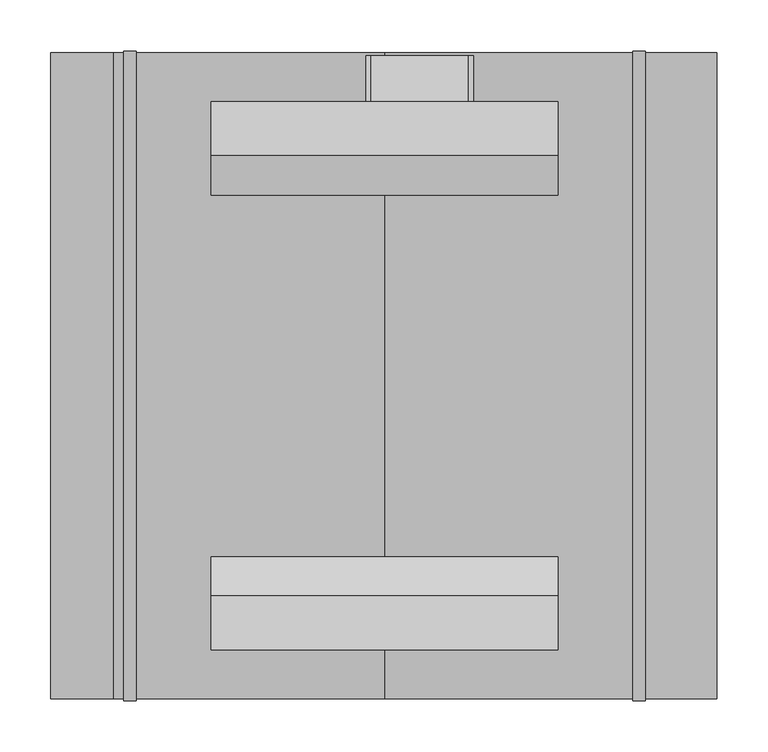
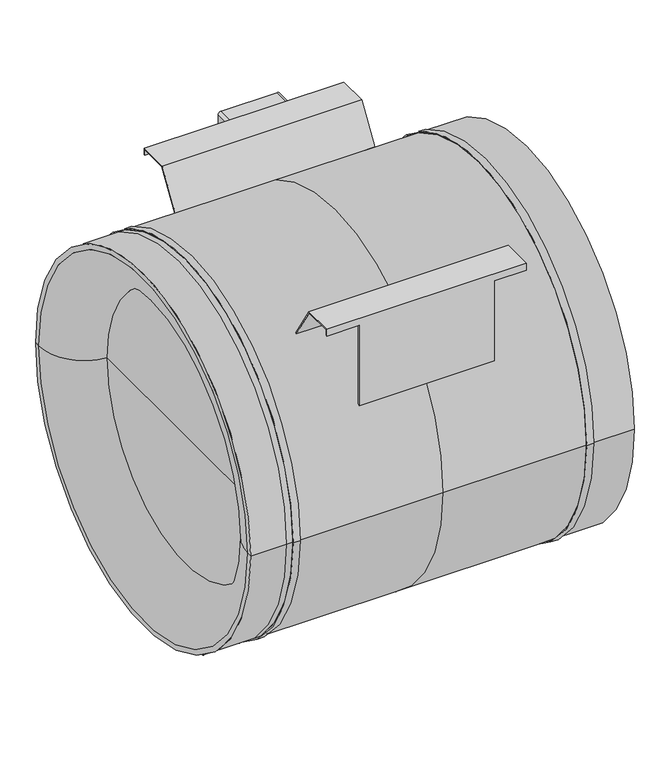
"""IFC4 building model written with IfcOpenShell, lengths in millimetres: unitary equipment geometry, VE-Wentylator-ParaForma-Harmann-JETTEC-Nawiewny : 630/14000S."""

from ifc_helpers import new_model, si_unit, point, frame, frame_2d, origin, place, context, project, spatial, polyline, circle_curve, ellipse_curve, trimmed, segment, composite_curve, outline, extrude, source, transform, mapped, element, save
from ifc_brep_helpers import plane_surface, cylinder_surface, revolved_surface, advanced_brep


def unitary_equipment_4c27e171(model_context):
    return source(origin(), model_context, "Body", "SolidModel", [
        extrude(outline(composite_curve([segment(trimmed(circle_curve(frame_2d((222.6, 82.2)), 5.0), [point((217.6, 82.2))], [point((222.6, 87.2))], False, "CARTESIAN"), True, "CONTINUOUS"), segment(polyline([(222.6, 87.2), (303.6, 87.2)]), True, "CONTINUOUS"), segment(trimmed(circle_curve(frame_2d((303.6, 82.2)), 5.0), [point((303.6, 87.2))], [point((308.6, 82.2))], False, "CARTESIAN"), True, "CONTINUOUS"), segment(polyline([(308.6, 82.2), (308.6, -13.2)]), True, "CONTINUOUS"), segment(trimmed(circle_curve(frame_2d((303.6, -13.2)), 5.0), [point((308.6, -13.2))], [point((303.6, -18.2))], False, "CARTESIAN"), True, "CONTINUOUS"), segment(polyline([(303.6, -18.2), (222.6, -18.2)]), True, "CONTINUOUS"), segment(trimmed(circle_curve(frame_2d((222.6, -13.2)), 5.0), [point((222.6, -18.2))], [point((217.6, -13.2))], False, "CARTESIAN"), True, "CONTINUOUS"), segment(polyline([(217.6, -13.2), (217.6, 82.2)]), True, "CONTINUOUS")], self_intersect=False)), frame((0.0, 269.2, 0.0), z_axis=(0.0, 1.0, 0.0), x_axis=(0.0, 0.0, 1.0)), (0.0, 0.0, 1.0), 45.0),
        advanced_brep(
        [(170.0, 269.2, 312.2), (170.0, 269.2, 324.2), (170.0, 216.1, 324.2), (170.0, 177.6331917, 262.7970495), (170.0, 179.2878179, 261.6710117), (170.0, 217.2071194, 322.2), (170.0, 267.2, 322.2), (170.0, 267.2, 312.2), (115.0, 267.2, 312.2), (115.0, 269.2, 312.2), (-170.0, 267.2, 322.2), (-170.0, 267.2, 312.2), (-115.0, 267.2, 312.2), (-115.0, 267.2, 170.9385855), (115.0, 267.2, 170.9385855), (-170.0, 217.2071194, 322.2), (115.0, 179.2878179, 261.6710117), (-115.0, 179.2878179, 261.6710117), (-170.0, 179.2878179, 261.6710117), (-170.0, 216.1, 324.2), (-170.0, 177.6331917, 262.7970495), (-115.0, 177.6331917, 262.7970495), (115.0, 177.6331917, 262.7970495), (-170.0, 269.2, 324.2), (115.0, 269.2, 167.7712729), (-115.0, 269.2, 167.7712729), (-115.0, 269.2, 312.2), (-170.0, 269.2, 312.2)],
        [
            (0, 1),
            (1, 2),
            (2, 3),
            (3, 4, circle_curve(frame((170.0, 0.0, 0.0), z_axis=(-1.0, 0.0, 0.0), x_axis=(0.0, 1.0, 0.0)), 317.2)),
            (4, 5),
            (5, 6),
            (6, 7),
            (7, 0),
            (7, 8),
            (8, 9),
            (9, 0),
            (6, 10),
            (10, 11),
            (11, 12),
            (12, 13),
            (13, 14),
            (14, 8),
            (5, 15),
            (15, 10),
            (4, 16),
            (16, 17),
            (17, 18),
            (18, 15),
            (19, 20),
            (20, 21),
            (21, 22),
            (22, 3),
            (2, 19),
            (1, 23),
            (23, 19),
            (9, 24),
            (24, 25),
            (25, 26),
            (26, 27),
            (27, 23),
            (20, 18, circle_curve(frame((-170.0, 0.0, 0.0), z_axis=(-1.0, 0.0, 0.0), x_axis=(0.0, 1.0, 0.0)), 317.2)),
            (17, 21, circle_curve(frame((-115.0, 0.0, 0.0), z_axis=(1.0, 0.0, 0.0), x_axis=(0.0, 1.0, 0.0)), 317.2)),
            (22, 16, circle_curve(frame((115.0, 0.0, 0.0), z_axis=(-1.0, 0.0, 0.0), x_axis=(0.0, 1.0, 0.0)), 317.2)),
            (25, 13, circle_curve(frame((-115.0, 0.0, 0.0), z_axis=(1.0, 0.0, 0.0), x_axis=(0.0, 1.0, 0.0)), 317.2)),
            (12, 26),
            (14, 24, circle_curve(frame((115.0, 0.0, 0.0), z_axis=(-1.0, 0.0, 0.0), x_axis=(0.0, 1.0, 0.0)), 317.2)),
            (27, 11),
        ],
        [
            plane_surface(frame((170.0, 0.0, 0.0), z_axis=(1.0, 0.0, 0.0), x_axis=(0.0, 0.0, 1.0))),
            plane_surface(frame((115.0, 269.2, 312.2), z_axis=(0.0, 0.0, -1.0), x_axis=(1.0, 0.0, 0.0))),
            plane_surface(frame((115.0, 267.2, 312.2), z_axis=(0.0, -1.0, 0.0), x_axis=(1.0, 0.0, 0.0))),
            plane_surface(frame((115.0, 267.2, 322.2), z_axis=(0.0, 0.0, -1.0), x_axis=(1.0, 0.0, 0.0))),
            plane_surface(frame((115.0, 217.2071194, 322.2), z_axis=(0.0, 0.8474398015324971, -0.5308914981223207), x_axis=(1.0, 0.0, 0.0))),
            plane_surface(frame((115.0, 13.0, 0.0), z_axis=(0.0, -0.8474398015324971, 0.5308914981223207), x_axis=(1.0, 0.0, 0.0))),
            plane_surface(frame((115.0, 216.1, 324.2), z_axis=(0.0, 0.0, 1.0), x_axis=(1.0, 0.0, 0.0))),
            plane_surface(frame((115.0, 269.2, 324.2), z_axis=(0.0, 1.0, 0.0), x_axis=(1.0, 0.0, 0.0))),
            revolved_surface(polyline([(-170.0, 317.2, 0.0), (-115.0, 317.2, 0.0)]), (-170.0, 0.0, 0.0), (-1.0, 0.0, 0.0)),
            revolved_surface(polyline([(115.0, 317.2, 0.0), (170.0, 317.2, 0.0)]), (115.0, 0.0, 0.0), (-1.0, 0.0, 0.0)),
            plane_surface(frame((-115.0, 0.0, 0.0), z_axis=(-1.0, 0.0, 0.0), x_axis=(0.0, 0.0, 1.0))),
            plane_surface(frame((115.0, 0.0, 0.0), z_axis=(1.0, 0.0, 0.0), x_axis=(0.0, 0.0, 1.0))),
            revolved_surface(polyline([(-115.0, 317.2, 0.0), (115.0, 317.2, 0.0)]), (-115.0, 0.0, 0.0), (-1.0, 0.0, 0.0)),
            plane_surface(frame((-170.0, 0.0, 0.0), z_axis=(-1.0, 0.0, 0.0), x_axis=(0.0, 0.0, 1.0))),
            plane_surface(frame((-170.0, 269.2, 312.2), z_axis=(0.0, 0.0, -1.0), x_axis=(1.0, 0.0, 0.0))),
        ],
        [
            (0, [[1, 2, 3, 4, 5, 6, 7, 8]]),
            (1, [[-8, 9, 10, 11]]),
            (2, [[-7, 12, 13, 14, 15, 16, 17, -9]]),
            (3, [[-12, -6, 18, 19]]),
            (4, [[-18, -5, 20, 21, 22, 23]]),
            (5, [[24, 25, 26, 27, -3, 28]]),
            (6, [[-28, -2, 29, 30]]),
            (7, [[-29, -1, -11, 31, 32, 33, 34, 35]]),
            (8, [[36, -22, 37, -25]]),
            (9, [[-4, -27, 38, -20]]),
            (10, [[39, -15, 40, -33]]),
            (11, [[41, -31, -10, -17]]),
            (12, [[-21, -38, -26, -37]]),
            (12, [[-39, -32, -41, -16]]),
            (13, [[42, -13, -19, -23, -36, -24, -30, -35]]),
            (14, [[-42, -34, -40, -14]]),
        ],
    ),
        advanced_brep(
        [(170.0, -216.1, 324.2), (170.0, -269.2, 324.2), (170.0, -269.2, 312.2), (170.0, -267.2, 312.2), (170.0, -267.2, 322.2), (170.0, -217.2071194, 322.2), (170.0, -179.2878179, 261.6710117), (170.0, -177.6331917, 262.7970495), (-170.0, -217.2071194, 322.2), (-170.0, -179.2878179, 261.6710117), (-115.0, -179.2878179, 261.6710117), (115.0, -179.2878179, 261.6710117), (-170.0, -267.2, 322.2), (115.0, -267.2, 312.2), (115.0, -267.2, 170.9385855), (-115.0, -267.2, 170.9385855), (-115.0, -267.2, 312.2), (-170.0, -267.2, 312.2), (115.0, -269.2, 312.2), (-170.0, -269.2, 324.2), (-170.0, -269.2, 312.2), (-115.0, -269.2, 312.2), (-115.0, -269.2, 167.7712729), (115.0, -269.2, 167.7712729), (-170.0, -216.1, 324.2), (115.0, -177.6331917, 262.7970495), (-115.0, -177.6331917, 262.7970495), (-170.0, -177.6331917, 262.7970495)],
        [
            (0, 1),
            (1, 2),
            (2, 3),
            (3, 4),
            (4, 5),
            (5, 6),
            (6, 7, circle_curve(frame((170.0, 0.0, 0.0), z_axis=(-1.0, 0.0, 0.0), x_axis=(0.0, 1.0, 0.0)), 317.2)),
            (7, 0),
            (8, 9),
            (9, 10),
            (10, 11),
            (11, 6),
            (5, 8),
            (4, 12),
            (12, 8),
            (3, 13),
            (13, 14),
            (14, 15),
            (15, 16),
            (16, 17),
            (17, 12),
            (2, 18),
            (18, 13),
            (1, 19),
            (19, 20),
            (20, 21),
            (21, 22),
            (22, 23),
            (23, 18),
            (0, 24),
            (24, 19),
            (7, 25),
            (25, 26),
            (26, 27),
            (27, 24),
            (9, 27, circle_curve(frame((-170.0, 0.0, 0.0), z_axis=(-1.0, 0.0, 0.0), x_axis=(0.0, 1.0, 0.0)), 317.2)),
            (26, 10, circle_curve(frame((-115.0, 0.0, 0.0), z_axis=(1.0, 0.0, 0.0), x_axis=(0.0, 1.0, 0.0)), 317.2)),
            (11, 25, circle_curve(frame((115.0, 0.0, 0.0), z_axis=(-1.0, 0.0, 0.0), x_axis=(0.0, 1.0, 0.0)), 317.2)),
            (15, 22, circle_curve(frame((-115.0, 0.0, 0.0), z_axis=(1.0, 0.0, 0.0), x_axis=(0.0, 1.0, 0.0)), 317.2)),
            (21, 16),
            (23, 14, circle_curve(frame((115.0, 0.0, 0.0), z_axis=(-1.0, 0.0, 0.0), x_axis=(0.0, 1.0, 0.0)), 317.2)),
            (17, 20),
        ],
        [
            plane_surface(frame((170.0, 0.0, 0.0), z_axis=(1.0, 0.0, 0.0), x_axis=(0.0, 0.0, 1.0))),
            plane_surface(frame((115.0, -14.1071194, -2.0), z_axis=(0.0, -0.8474398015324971, -0.5308914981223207), x_axis=(1.0, 0.0, 0.0))),
            plane_surface(frame((115.0, -217.2071194, 322.2), z_axis=(0.0, 0.0, -1.0), x_axis=(1.0, 0.0, 0.0))),
            plane_surface(frame((115.0, -267.2, 322.2), z_axis=(0.0, 1.0, 0.0), x_axis=(1.0, 0.0, 0.0))),
            plane_surface(frame((115.0, -267.2, 312.2), z_axis=(0.0, 0.0, -1.0), x_axis=(1.0, 0.0, 0.0))),
            plane_surface(frame((115.0, -269.2, 312.2), z_axis=(0.0, -1.0, 0.0), x_axis=(1.0, 0.0, 0.0))),
            plane_surface(frame((115.0, -269.2, 324.2), z_axis=(0.0, 0.0, 1.0), x_axis=(1.0, 0.0, 0.0))),
            plane_surface(frame((115.0, -216.1, 324.2), z_axis=(0.0, 0.8474398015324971, 0.5308914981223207), x_axis=(1.0, 0.0, 0.0))),
            revolved_surface(polyline([(-170.0, 317.2, 0.0), (-115.0, 317.2, 0.0)]), (-170.0, 0.0, 0.0), (-1.0, 0.0, 0.0)),
            revolved_surface(polyline([(115.0, 317.2, 0.0), (170.0, 317.2, 0.0)]), (115.0, 0.0, 0.0), (-1.0, 0.0, 0.0)),
            plane_surface(frame((-115.0, 0.0, 0.0), z_axis=(-1.0, 0.0, 0.0), x_axis=(0.0, 0.0, 1.0))),
            plane_surface(frame((115.0, 0.0, 0.0), z_axis=(1.0, 0.0, 0.0), x_axis=(0.0, 0.0, 1.0))),
            revolved_surface(polyline([(-115.0, 317.2, 0.0), (115.0, 317.2, 0.0)]), (-115.0, 0.0, 0.0), (-1.0, 0.0, 0.0)),
            plane_surface(frame((-170.0, 0.0, 0.0), z_axis=(-1.0, 0.0, 0.0), x_axis=(0.0, 0.0, 1.0))),
            plane_surface(frame((-170.0, -267.2, 312.2), z_axis=(0.0, 0.0, -1.0), x_axis=(1.0, 0.0, 0.0))),
        ],
        [
            (0, [[1, 2, 3, 4, 5, 6, 7, 8]]),
            (1, [[9, 10, 11, 12, -6, 13]]),
            (2, [[-13, -5, 14, 15]]),
            (3, [[-14, -4, 16, 17, 18, 19, 20, 21]]),
            (4, [[-3, 22, 23, -16]]),
            (5, [[-2, 24, 25, 26, 27, 28, 29, -22]]),
            (6, [[-24, -1, 30, 31]]),
            (7, [[-30, -8, 32, 33, 34, 35]]),
            (8, [[36, -34, 37, -10]]),
            (9, [[-7, -12, 38, -32]]),
            (10, [[39, -27, 40, -19]]),
            (11, [[41, -17, -23, -29]]),
            (12, [[-11, -37, -33, -38]]),
            (12, [[-39, -18, -41, -28]]),
            (13, [[-15, -21, 42, -25, -31, -35, -36, -9]]),
            (14, [[-42, -20, -40, -26]]),
        ],
    ),
        advanced_brep(
        [(0.0, 317.2, 0.0), (0.0, -317.2, 0.0), (-244.0, -317.2, 0.0), (-244.0, 317.2, 0.0), (-265.9, -317.2, 0.0), (-265.9, 317.2, 0.0), (-256.0, 317.2, 0.0), (-256.0, -317.2, 0.0), (-327.5, -317.2, 0.0), (-327.5, 317.2, 0.0), (-327.5, -308.5, 0.0), (-327.5, 308.5, 0.0), (-256.0, -230.3127248, 0.0), (-256.0, 230.3127248, 0.0), (326.0, -317.2, 0.0), (326.0, 317.2, 0.0), (326.0, 0.0, 0.0), (256.0, -317.2, 0.0), (256.0, 317.2, 0.0), (244.0, 317.2, 0.0), (244.0, -317.2, 0.0), (-244.0, -319.0, 0.0), (-244.0, 319.0, 0.0), (-256.0, -319.0, 0.0), (-256.0, 319.0, 0.0), (-256.0, 0.0, 0.0), (256.0, -319.0, 0.0), (256.0, 319.0, 0.0), (244.0, -319.0, 0.0), (244.0, 319.0, 0.0)],
        [
            (0, 1, circle_curve(frame((0.0, 0.0, 0.0), z_axis=(-1.0, 0.0, 0.0), x_axis=(0.0, 1.0, 0.0)), 317.2)),
            (1, 2),
            (2, 3, circle_curve(frame((-244.0, 0.0, 0.0), z_axis=(1.0, 0.0, 0.0), x_axis=(0.0, 1.0, 0.0)), 317.2)),
            (3, 0),
            (1, 0, circle_curve(frame((0.0, 0.0, 0.0), z_axis=(-1.0, 0.0, 0.0), x_axis=(0.0, 1.0, 0.0)), 317.2)),
            (3, 2, circle_curve(frame((-244.0, 0.0, 0.0), z_axis=(1.0, 0.0, 0.0), x_axis=(0.0, 1.0, 0.0)), 317.2)),
            (4, 5, circle_curve(frame((-265.9, 0.0, 0.0), z_axis=(1.0, 0.0, 0.0), x_axis=(0.0, 1.0, 0.0)), 317.2)),
            (5, 6),
            (6, 7, circle_curve(frame((-256.0, 0.0, 0.0), z_axis=(-1.0, 0.0, 0.0), x_axis=(0.0, 1.0, 0.0)), 317.2)),
            (7, 4),
            (5, 4, circle_curve(frame((-265.9, 0.0, 0.0), z_axis=(1.0, 0.0, 0.0), x_axis=(0.0, 1.0, 0.0)), 317.2)),
            (7, 6, circle_curve(frame((-256.0, 0.0, 0.0), z_axis=(-1.0, 0.0, 0.0), x_axis=(0.0, 1.0, 0.0)), 317.2)),
            (4, 8),
            (8, 9, circle_curve(frame((-327.5, 0.0, 0.0), z_axis=(1.0, 0.0, 0.0), x_axis=(0.0, 1.0, 0.0)), 317.2)),
            (9, 5),
            (9, 8, circle_curve(frame((-327.5, 0.0, 0.0), z_axis=(1.0, 0.0, 0.0), x_axis=(0.0, 1.0, 0.0)), 317.2)),
            (8, 10),
            (10, 11, circle_curve(frame((-327.5, 0.0, 0.0), z_axis=(1.0, 0.0, 0.0), x_axis=(0.0, 1.0, 0.0)), 308.5)),
            (11, 9),
            (11, 10, circle_curve(frame((-327.5, 0.0, 0.0), z_axis=(1.0, 0.0, 0.0), x_axis=(0.0, 1.0, 0.0)), 308.5)),
            (10, 12, circle_curve(frame((-249.0, -308.5, 0.0), z_axis=(0.0, 0.0, -1.0), x_axis=(1.0, 0.0, 0.0)), 78.5)),
            (12, 13, circle_curve(frame((-256.0, 0.0, 0.0), z_axis=(1.0, 0.0, 0.0), x_axis=(0.0, 1.0, 0.0)), 230.3127248)),
            (13, 11, circle_curve(frame((-249.0, 308.5, 0.0), z_axis=(0.0, 0.0, -1.0), x_axis=(1.0, 0.0, 0.0)), 78.5)),
            (13, 12, circle_curve(frame((-256.0, 0.0, 0.0), z_axis=(1.0, 0.0, 0.0), x_axis=(0.0, 1.0, 0.0)), 230.3127248)),
            (14, 15, circle_curve(frame((326.0, 0.0, 0.0), z_axis=(1.0, 0.0, 0.0), x_axis=(0.0, 1.0, 0.0)), 317.2)),
            (15, 16),
            (16, 14),
            (15, 14, circle_curve(frame((326.0, 0.0, 0.0), z_axis=(1.0, 0.0, 0.0), x_axis=(0.0, 1.0, 0.0)), 317.2)),
            (14, 17),
            (17, 18, circle_curve(frame((256.0, 0.0, 0.0), z_axis=(1.0, 0.0, 0.0), x_axis=(0.0, 1.0, 0.0)), 317.2)),
            (18, 15),
            (18, 17, circle_curve(frame((256.0, 0.0, 0.0), z_axis=(1.0, 0.0, 0.0), x_axis=(0.0, 1.0, 0.0)), 317.2)),
            (0, 19),
            (19, 20, circle_curve(frame((244.0, 0.0, 0.0), z_axis=(-1.0, 0.0, 0.0), x_axis=(0.0, 1.0, 0.0)), 317.2)),
            (20, 1),
            (20, 19, circle_curve(frame((244.0, 0.0, 0.0), z_axis=(-1.0, 0.0, 0.0), x_axis=(0.0, 1.0, 0.0)), 317.2)),
            (21, 22, circle_curve(frame((-244.0, 0.0, 0.0), z_axis=(1.0, 0.0, 0.0), x_axis=(0.0, 1.0, 0.0)), 319.0)),
            (22, 3),
            (2, 21),
            (22, 21, circle_curve(frame((-244.0, 0.0, 0.0), z_axis=(1.0, 0.0, 0.0), x_axis=(0.0, 1.0, 0.0)), 319.0)),
            (21, 23),
            (23, 24, circle_curve(frame((-256.0, 0.0, 0.0), z_axis=(1.0, 0.0, 0.0), x_axis=(0.0, 1.0, 0.0)), 319.0)),
            (24, 22),
            (24, 23, circle_curve(frame((-256.0, 0.0, 0.0), z_axis=(1.0, 0.0, 0.0), x_axis=(0.0, 1.0, 0.0)), 319.0)),
            (23, 7),
            (6, 24),
            (12, 25),
            (25, 13),
            (26, 27, circle_curve(frame((256.0, 0.0, 0.0), z_axis=(1.0, 0.0, 0.0), x_axis=(0.0, 1.0, 0.0)), 319.0)),
            (27, 18),
            (17, 26),
            (27, 26, circle_curve(frame((256.0, 0.0, 0.0), z_axis=(1.0, 0.0, 0.0), x_axis=(0.0, 1.0, 0.0)), 319.0)),
            (26, 28),
            (28, 29, circle_curve(frame((244.0, 0.0, 0.0), z_axis=(1.0, 0.0, 0.0), x_axis=(0.0, 1.0, 0.0)), 319.0)),
            (29, 27),
            (29, 28, circle_curve(frame((244.0, 0.0, 0.0), z_axis=(1.0, 0.0, 0.0), x_axis=(0.0, 1.0, 0.0)), 319.0)),
            (28, 20),
            (19, 29),
        ],
        [
            cylinder_surface(frame((-249.0, 0.0, 0.0), z_axis=(-1.0, 0.0, 0.0), x_axis=(0.0, 1.0, 0.0)), 317.2),
            plane_surface(frame((-327.5, 0.0, 0.0), z_axis=(-1.0, 0.0, 0.0), x_axis=(0.0, 1.0, 0.0))),
            revolved_surface(trimmed(ellipse_curve(frame((-249.0, 308.5, 0.0), z_axis=(0.0, 0.0, 1.0), x_axis=(1.0, 0.0, 0.0)), 78.5, 78.5), [point((-327.5, 308.5, 0.0))], [point((-249.0, 230.0, 0.0))], True, "CARTESIAN"), (-249.0, 0.0, 0.0), (-1.0, 0.0, 0.0)),
            plane_surface(frame((326.0, 0.0, 0.0), z_axis=(1.0, 0.0, 0.0), x_axis=(0.0, 1.0, 0.0))),
            cylinder_surface(frame((0.0, 0.0, 0.0), z_axis=(-1.0, 0.0, 0.0), x_axis=(0.0, 1.0, 0.0)), 317.2),
            plane_surface(frame((-244.0, 0.0, 0.0), z_axis=(1.0, 0.0, 0.0), x_axis=(0.0, 1.0, 0.0))),
            cylinder_surface(frame((-256.0, 0.0, 0.0), z_axis=(-1.0, 0.0, 0.0), x_axis=(0.0, 1.0, 0.0)), 319.0),
            plane_surface(frame((-256.0, 0.0, 0.0), z_axis=(-1.0, 0.0, 0.0), x_axis=(0.0, 1.0, 0.0))),
            plane_surface(frame((256.0, 0.0, 0.0), z_axis=(1.0, 0.0, 0.0), x_axis=(0.0, 1.0, 0.0))),
            plane_surface(frame((244.0, 0.0, 0.0), z_axis=(-1.0, 0.0, 0.0), x_axis=(0.0, 1.0, 0.0))),
        ],
        [
            (0, [[1, 2, 3, 4]]),
            (0, [[5, -4, 6, -2]]),
            (0, [[7, 8, 9, 10]]),
            (0, [[-8, 11, -10, 12]]),
            (0, [[-7, 13, 14, 15]]),
            (0, [[-11, -15, 16, -13]]),
            (1, [[-14, 17, 18, 19]]),
            (1, [[-16, -19, 20, -17]]),
            (2, [[-18, 21, 22, 23]]),
            (2, [[-20, -23, 24, -21]]),
            (3, [[25, 26, 27]]),
            (3, [[-26, 28, -27]]),
            (4, [[-25, 29, 30, 31]]),
            (4, [[-28, -31, 32, -29]]),
            (4, [[33, 34, 35, -1]]),
            (4, [[-33, -5, -35, 36]]),
            (5, [[37, 38, -3, 39]]),
            (5, [[40, -39, -6, -38]]),
            (6, [[-37, 41, 42, 43]]),
            (6, [[-40, -43, 44, -41]]),
            (7, [[-42, 45, -9, 46]]),
            (7, [[47, 48, -22]]),
            (7, [[-47, -24, -48]]),
            (7, [[-44, -46, -12, -45]]),
            (8, [[49, 50, -30, 51]]),
            (8, [[52, -51, -32, -50]]),
            (6, [[-49, 53, 54, 55]]),
            (6, [[-52, -55, 56, -53]]),
            (9, [[-54, 57, -34, 58]]),
            (9, [[-56, -58, -36, -57]]),
        ],
    ),
    ])


if __name__ == "__main__":
    model = new_model("IFC4")
    model_context = context("Model", 3, world=origin())
    ifc_project = project(units=[si_unit("LENGTHUNIT", "METRE", prefix="MILLI")], contexts=[model_context])
    site = spatial("IfcSite", under=ifc_project)
    building = spatial("IfcBuilding", under=site)
    placement = place(None, origin())
    unitary_equipment_shape = unitary_equipment_4c27e171(model_context)
    element("IfcUnitaryEquipment", 1, ObjectType="VE-Wentylator-ParaForma-Harmann-JETTEC-Nawiewny : 630/14000S", at=placement, inside=building, context=model_context, shape_type="MappedRepresentation", body=[
        mapped(unitary_equipment_shape, transform((0.0, 0.0, 0.0), x_axis=(1.0, 0.0, 0.0), y_axis=(0.0, 1.0, 0.0), z_axis=(0.0, 0.0, 1.0))),
    ])
    save(model, "model.ifc")
